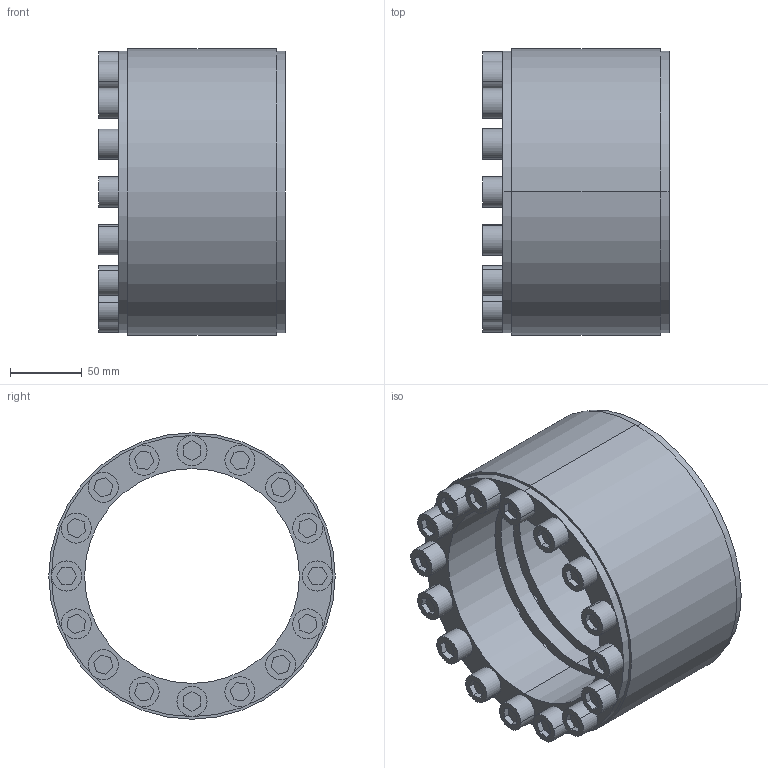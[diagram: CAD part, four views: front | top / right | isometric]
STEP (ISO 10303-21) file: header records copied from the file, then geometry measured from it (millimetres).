
FILE_DESCRIPTION (( 'STEP AP203' ), '1' );
FILE_NAME ('SF-150.STEP', '2009-09-29T17:19:58', ( 'USER' ), ( 'HOME' ), 'SwSTEP 2.0', 'SolidWorks 2007', '' );
FILE_SCHEMA (( 'CONFIG_CONTROL_DESIGN' ));
Length unit declared in the file: millimetre
Products named in the file (1): SF-150
Bounding box: 130 x 200 x 200 mm (x, y, z)
Volume: 1511136.1 mm3; surface area: 350285.8 mm2
Topology: 17 solids, 17 shells, 344 faces, 816 edges, 544 vertices
Faces by surface type: cylinder 176, plane 168
Entity records: 10293 total; most frequent: DIRECTION 1858, CARTESIAN_POINT 1705, ORIENTED_EDGE 1632, EDGE_CURVE 816, AXIS2_PLACEMENT_3D 697, VERTEX_POINT 544, EDGE_LOOP 480, VECTOR 464
